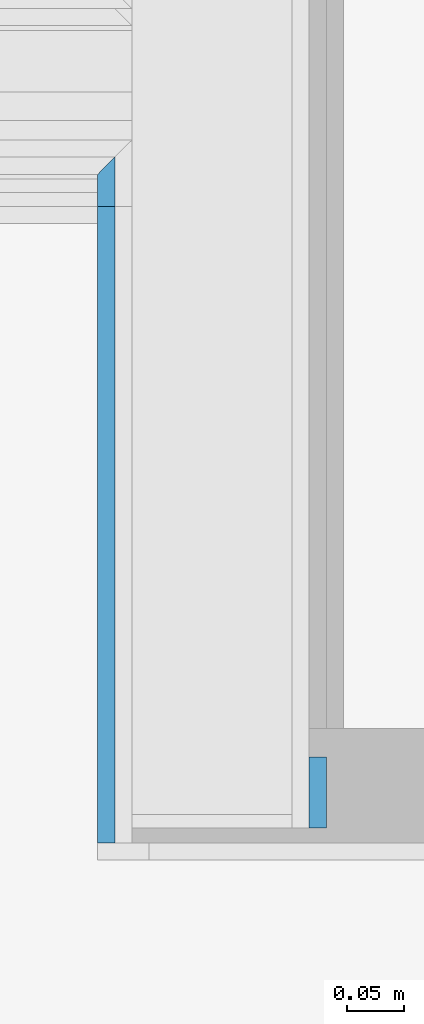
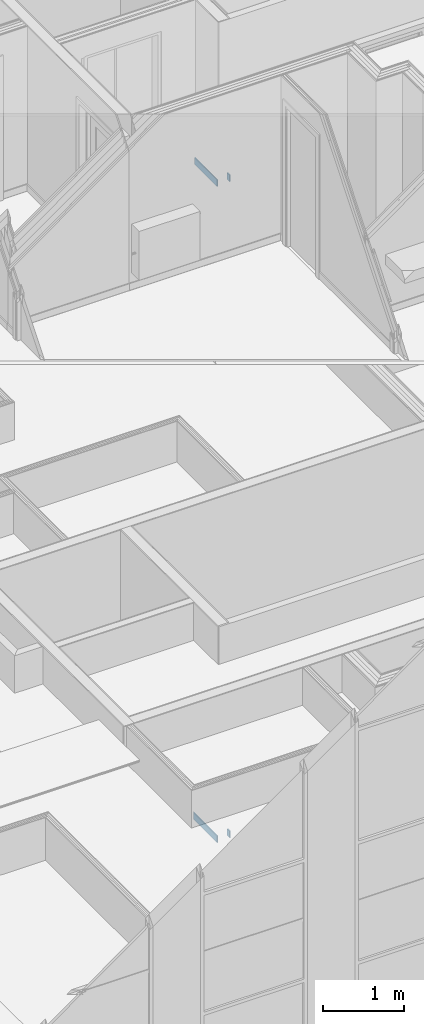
# One storey, part 53 of 169: 4 building element parts, 2 elements without a shape of their own.
"""IFC2X3 building model written with IfcOpenShell, lengths in metres."""

from ifc_helpers import new_model, entity, si_unit, converted_unit, derived_unit, money_unit, direction, frame, frame_2d, origin_with_axes, place, context, subcontext, project, spatial, polyline, rectangle, outline, extrude, material, type_object, element, aggregate, save


model = new_model("IFC2X3")

# Units and contexts
model_context = context("Model", 3, precision=1e-05, world=origin_with_axes(), true_north=direction((0.0, 1.0)))
body_context = subcontext(model_context, "Body", "Model", "MODEL_VIEW", scale=1.0)
ifc_project = project(units=[si_unit("LENGTHUNIT", "METRE"), si_unit("AREAUNIT", "SQUARE_METRE"), si_unit("VOLUMEUNIT", "CUBIC_METRE"), si_unit("ABSORBEDDOSEUNIT", "GRAY"), si_unit("AMOUNTOFSUBSTANCEUNIT", "MOLE"), si_unit("DOSEEQUIVALENTUNIT", "SIEVERT"), si_unit("ELECTRICCAPACITANCEUNIT", "FARAD"), si_unit("ELECTRICCHARGEUNIT", "COULOMB"), si_unit("ELECTRICCONDUCTANCEUNIT", "SIEMENS"), si_unit("ELECTRICCURRENTUNIT", "AMPERE"), si_unit("ELECTRICRESISTANCEUNIT", "OHM"), si_unit("ELECTRICVOLTAGEUNIT", "VOLT"), si_unit("ENERGYUNIT", "JOULE"), si_unit("FORCEUNIT", "NEWTON"), si_unit("FREQUENCYUNIT", "HERTZ"), si_unit("ILLUMINANCEUNIT", "LUX"), si_unit("INDUCTANCEUNIT", "HENRY"), si_unit("LUMINOUSFLUXUNIT", "LUMEN"), si_unit("LUMINOUSINTENSITYUNIT", "CANDELA"), si_unit("MAGNETICFLUXDENSITYUNIT", "TESLA"), si_unit("MAGNETICFLUXUNIT", "WEBER"), si_unit("MASSUNIT", "GRAM"), converted_unit("PLANEANGLEUNIT", "degree", entity("IfcReal", 0.0174532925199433), si_unit("PLANEANGLEUNIT", "RADIAN"), dimensions=[0, 0, 0, 0, 0, 0, 0]), si_unit("POWERUNIT", "WATT"), si_unit("PRESSUREUNIT", "PASCAL"), si_unit("RADIOACTIVITYUNIT", "BECQUEREL"), si_unit("SOLIDANGLEUNIT", "STERADIAN"), si_unit("THERMODYNAMICTEMPERATUREUNIT", "KELVIN"), si_unit("TIMEUNIT", "SECOND"), derived_unit("ACCELERATIONUNIT", [(si_unit("LENGTHUNIT", "METRE"), 1), (si_unit("TIMEUNIT", "SECOND"), -2)]), derived_unit("ANGULARVELOCITYUNIT", [(converted_unit("PLANEANGLEUNIT", "degree", entity("IfcReal", 0.0174532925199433), si_unit("PLANEANGLEUNIT", "RADIAN"), dimensions=[0, 0, 0, 0, 0, 0, 0]), 1), (si_unit("TIMEUNIT", "SECOND"), -1)]), derived_unit("CURVATUREUNIT", [(converted_unit("PLANEANGLEUNIT", "degree", entity("IfcReal", 0.0174532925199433), si_unit("PLANEANGLEUNIT", "RADIAN"), dimensions=[0, 0, 0, 0, 0, 0, 0]), 1), (si_unit("LENGTHUNIT", "METRE"), -1)]), derived_unit("DYNAMICVISCOSITYUNIT", [(si_unit("PRESSUREUNIT", "PASCAL"), 1), (si_unit("TIMEUNIT", "SECOND"), 1)]), derived_unit("HEATFLUXDENSITYUNIT", [(si_unit("POWERUNIT", "WATT"), 1), (si_unit("LENGTHUNIT", "METRE"), -2)]), derived_unit("HEATINGVALUEUNIT", [(si_unit("ENERGYUNIT", "JOULE"), 1), (si_unit("MASSUNIT", "GRAM"), -1)]), derived_unit("INTEGERCOUNTRATEUNIT", [(si_unit("TIMEUNIT", "SECOND"), -1)]), derived_unit("IONCONCENTRATIONUNIT", [(si_unit("MASSUNIT", "GRAM"), 1), (si_unit("VOLUMEUNIT", "CUBIC_METRE"), -1)]), derived_unit("ISOTHERMALMOISTURECAPACITYUNIT", [(si_unit("VOLUMEUNIT", "CUBIC_METRE"), 1), (si_unit("MASSUNIT", "GRAM"), -1)]), derived_unit("KINEMATICVISCOSITYUNIT", [(si_unit("AREAUNIT", "SQUARE_METRE"), 1), (si_unit("TIMEUNIT", "SECOND"), -1)]), derived_unit("LINEARFORCEUNIT", [(si_unit("FORCEUNIT", "NEWTON"), 1), (si_unit("LENGTHUNIT", "METRE"), -1)]), derived_unit("LINEARMOMENTUNIT", [(si_unit("FORCEUNIT", "NEWTON"), 1), (si_unit("LENGTHUNIT", "METRE"), -1)]), derived_unit("LINEARSTIFFNESSUNIT", [(si_unit("FORCEUNIT", "NEWTON"), 1), (si_unit("LENGTHUNIT", "METRE"), -1)]), derived_unit("LINEARVELOCITYUNIT", [(si_unit("LENGTHUNIT", "METRE"), 1), (si_unit("TIMEUNIT", "SECOND"), -1)]), derived_unit("LUMINOUSINTENSITYDISTRIBUTIONUNIT", [(si_unit("LUMINOUSINTENSITYUNIT", "CANDELA"), 1), (si_unit("LUMINOUSFLUXUNIT", "LUMEN"), -1)]), derived_unit("MASSDENSITYUNIT", [(si_unit("MASSUNIT", "GRAM"), 1), (si_unit("VOLUMEUNIT", "CUBIC_METRE"), -1)]), derived_unit("MASSFLOWRATEUNIT", [(si_unit("MASSUNIT", "GRAM"), 1), (si_unit("TIMEUNIT", "SECOND"), -1)]), derived_unit("MASSPERLENGTHUNIT", [(si_unit("MASSUNIT", "GRAM"), 1), (si_unit("LENGTHUNIT", "METRE"), -1)]), derived_unit("MODULUSOFELASTICITYUNIT", [(si_unit("FORCEUNIT", "NEWTON"), 1), (si_unit("AREAUNIT", "SQUARE_METRE"), -1)]), derived_unit("MODULUSOFLINEARSUBGRADEREACTIONUNIT", [(si_unit("FORCEUNIT", "NEWTON"), 1), (si_unit("LENGTHUNIT", "METRE"), -2)]), derived_unit("MODULUSOFROTATIONALSUBGRADEREACTIONUNIT", [(si_unit("FORCEUNIT", "NEWTON"), 1), (si_unit("LENGTHUNIT", "METRE"), 1)]), derived_unit("MODULUSOFSUBGRADEREACTIONUNIT", [(si_unit("FORCEUNIT", "NEWTON"), 1), (si_unit("VOLUMEUNIT", "CUBIC_METRE"), -1)]), derived_unit("MOISTUREDIFFUSIVITYUNIT", [(si_unit("VOLUMEUNIT", "CUBIC_METRE"), 1), (si_unit("TIMEUNIT", "SECOND"), -1)]), derived_unit("MOLECULARWEIGHTUNIT", [(si_unit("MASSUNIT", "GRAM"), 1), (si_unit("AMOUNTOFSUBSTANCEUNIT", "MOLE"), -1)]), derived_unit("PLANARFORCEUNIT", [(si_unit("FORCEUNIT", "NEWTON"), 1), (si_unit("LENGTHUNIT", "METRE"), -2)]), derived_unit("ROTATIONALFREQUENCYUNIT", [(si_unit("TIMEUNIT", "SECOND"), -1)]), derived_unit("ROTATIONALMASSUNIT", [(si_unit("MASSUNIT", "GRAM"), 1), (si_unit("LENGTHUNIT", "METRE"), 2)]), derived_unit("ROTATIONALSTIFFNESSUNIT", [(si_unit("FORCEUNIT", "NEWTON"), 1), (si_unit("LENGTHUNIT", "METRE"), 1), (converted_unit("PLANEANGLEUNIT", "degree", entity("IfcReal", 0.0174532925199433), si_unit("PLANEANGLEUNIT", "RADIAN"), dimensions=[0, 0, 0, 0, 0, 0, 0]), -1)]), derived_unit("SECTIONAREAINTEGRALUNIT", [(si_unit("LENGTHUNIT", "METRE"), 5)]), derived_unit("SECTIONMODULUSUNIT", [(si_unit("LENGTHUNIT", "METRE"), 3)]), derived_unit("SHEARMODULUSUNIT", [(si_unit("FORCEUNIT", "NEWTON"), 1), (si_unit("AREAUNIT", "SQUARE_METRE"), -1)]), derived_unit("SOUNDPOWERUNIT", [(si_unit("ENERGYUNIT", "JOULE"), 1), (si_unit("TIMEUNIT", "SECOND"), -1)]), derived_unit("SPECIFICHEATCAPACITYUNIT", [(si_unit("FORCEUNIT", "NEWTON"), 1), (si_unit("MASSUNIT", "GRAM"), -1), (si_unit("THERMODYNAMICTEMPERATUREUNIT", "KELVIN"), -1)]), derived_unit("TEMPERATUREGRADIENTUNIT", [(si_unit("THERMODYNAMICTEMPERATUREUNIT", "KELVIN"), 1), (si_unit("LENGTHUNIT", "METRE"), -1)]), derived_unit("THERMALADMITTANCEUNIT", [(si_unit("POWERUNIT", "WATT"), 1), (si_unit("AREAUNIT", "SQUARE_METRE"), -1), (si_unit("THERMODYNAMICTEMPERATUREUNIT", "KELVIN"), -1)]), derived_unit("THERMALCONDUCTANCEUNIT", [(si_unit("POWERUNIT", "WATT"), 1), (si_unit("LENGTHUNIT", "METRE"), -1), (si_unit("THERMODYNAMICTEMPERATUREUNIT", "KELVIN"), -1)]), derived_unit("THERMALEXPANSIONCOEFFICIENTUNIT", [(si_unit("THERMODYNAMICTEMPERATUREUNIT", "KELVIN"), -1)]), derived_unit("THERMALRESISTANCEUNIT", [(si_unit("AREAUNIT", "SQUARE_METRE"), 1), (si_unit("POWERUNIT", "WATT"), -1)]), derived_unit("THERMALTRANSMITTANCEUNIT", [(si_unit("POWERUNIT", "WATT"), 1), (si_unit("AREAUNIT", "SQUARE_METRE"), -1), (si_unit("THERMODYNAMICTEMPERATUREUNIT", "KELVIN"), -1)]), derived_unit("TORQUEUNIT", [(si_unit("FORCEUNIT", "NEWTON"), 1), (si_unit("LENGTHUNIT", "METRE"), 1)]), derived_unit("VAPORPERMEABILITYUNIT", [(si_unit("MASSUNIT", "GRAM"), 1), (si_unit("TIMEUNIT", "SECOND"), -1)]), derived_unit("VOLUMETRICFLOWRATEUNIT", [(si_unit("VOLUMEUNIT", "CUBIC_METRE"), 1), (si_unit("TIMEUNIT", "SECOND"), -1)]), derived_unit("WARPINGCONSTANTUNIT", [(si_unit("LENGTHUNIT", "METRE"), 6)]), derived_unit("WARPINGMOMENTUNIT", [(si_unit("FORCEUNIT", "NEWTON"), 1), (si_unit("LENGTHUNIT", "METRE"), 2)]), money_unit("GBP")], contexts=[model_context])

# Site, building, storey
site_placement = place(None, origin_with_axes())
site = spatial("IfcSite", under=ifc_project, at=site_placement, Name="Site", CompositionType="ELEMENT")
building_placement = place(site_placement, origin_with_axes())
building = spatial("IfcBuilding", under=site, at=building_placement, Name="Building01", CompositionType="ELEMENT")
storey_placement = place(building_placement, frame((0.0, 0.0, 5.15), z_axis=(0.0, 0.0, 1.0), x_axis=(1.0, 0.0, 0.0)))
storey = spatial("IfcBuildingStorey", under=building, at=storey_placement, Name="1F", CompositionType="ELEMENT", Elevation=5.15)

# Wall, building element parts
wall_type = type_object("IfcWallType", Name="SHE_A-Walls_Type03a_BlockworkWall_170mm", PredefinedType="NOTDEFINED")
wall_1_placement = place(storey_placement, frame((11.145, 6.275, 0.0), z_axis=(0.0, 0.0, 1.0), x_axis=(0.0, 1.0, 0.0)))
wall_1 = element("IfcWall", 1, at=wall_1_placement, inside=storey, type_object=wall_type, Name="4B", ObjectType="SHE_A-Walls_Type03a_BlockworkWall_170mm")
ifc_material = material(Name="A_BSUK_Walls_Timber")
placement_1 = place(wall_1_placement, origin_with_axes())
building_element_part_1 = element("IfcBuildingElementPart", 2, at=placement_1, material=ifc_material, Name="1", context=body_context, shape_type="SweptSolid", body=[
    extrude(rectangle(XDim=0.062, YDim=0.015, at=frame_2d((0.019, -0.1625), x_axis=(-1.0, 0.0))), frame((0.0, 0.0, 0.015), z_axis=(0.0, 0.0, 1.0), x_axis=(1.0, 0.0, 0.0)), (0.0, 0.0, 1.0), 0.1),
])
building_element_part_2 = element("IfcBuildingElementPart", 3, at=placement_1, material=ifc_material, Name="6", context=body_context, shape_type="SweptSolid", body=[
    extrude(outline(polyline([(0.56, 0.03), (-0.025, 0.03), (-0.025, 0.015), (0.575, 0.015), (0.56, 0.03)])), frame((0.0, 0.0, 0.015), z_axis=(0.0, 0.0, 1.0), x_axis=(1.0, 0.0, 0.0)), (0.0, 0.0, 1.0), 0.1),
])
aggregate(wall_1, [building_element_part_1, building_element_part_2])

wall_2_placement = place(storey_placement, frame((11.145, 6.263, 9.83), z_axis=(0.0, 0.0, 1.0), x_axis=(0.0, 1.0, 0.0)))
wall_2 = element("IfcWall", 4, at=wall_2_placement, inside=storey, type_object=wall_type, Name="4B", ObjectType="SHE_A-Walls_Type03a_BlockworkWall_170mm")
placement_2 = place(wall_2_placement, origin_with_axes())
building_element_part_3 = element("IfcBuildingElementPart", 5, at=placement_2, material=ifc_material, Name="1", context=body_context, shape_type="SweptSolid", body=[
    extrude(rectangle(XDim=0.062, YDim=0.015, at=frame_2d((0.031, -0.1625), x_axis=(-1.0, 0.0))), frame((0.0, 0.0, 0.015), z_axis=(0.0, 0.0, 1.0), x_axis=(1.0, 0.0, 0.0)), (0.0, 0.0, 1.0), 0.1),
])
building_element_part_4 = element("IfcBuildingElementPart", 6, at=placement_2, material=ifc_material, Name="6", context=body_context, shape_type="SweptSolid", body=[
    extrude(rectangle(XDim=0.557, YDim=0.015, at=frame_2d((0.2655, 0.0225), x_axis=(-1.0, 0.0))), frame((0.0, 0.0, 0.015), z_axis=(0.0, 0.0, 1.0), x_axis=(1.0, 0.0, 0.0)), (0.0, 0.0, 1.0), 0.1),
])
aggregate(wall_2, [building_element_part_3, building_element_part_4])

save(model, "model.ifc")
